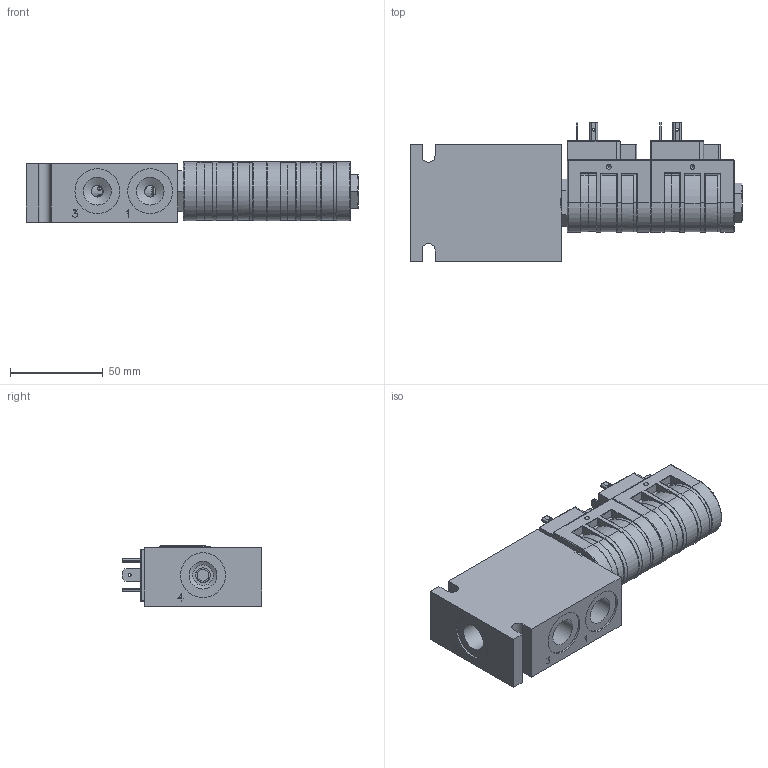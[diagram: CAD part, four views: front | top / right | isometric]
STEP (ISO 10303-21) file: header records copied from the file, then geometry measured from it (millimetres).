
FILE_DESCRIPTION( ( 'Unknown' ), '1' );
FILE_NAME( 'G:/Graphic Design/Graphic Design 2/Data Sheets/SOLENOID OPERATED VALVES/4_STEP/4W2P Spool/VQ-S4M00-B4.stp', 'Unknown', ( 'Unknown' ), ( 'Unknown' ), 'PSStep 15.0.49', 'Unknown', ' ' );
FILE_SCHEMA( ( 'AUTOMOTIVE_DESIGN { 1 0 10303 214 1 1 1 1 }' ) );
Length unit declared in the file: millimetre
Products named in the file (23): d-vq-s4m-00; VQS4M00-3D Full1; VQS4M00-3D Full2; VQS4M00-3D Full3; VQS4M00-3D Full4; VQS4M00-3D Full5; VQS4M00-3D Full6; VQS4M00-3D Full7; VQS4M00-3D Full8; VQS4M00-3D Full9; VQS4M00-3D Full10; VQS4M00-3D Full11; Delta_1_2_nut1 - Copy; D-PHC12_24; PHC_Body; PHC_Disc; PHC_HirschThread; PT-EL-HC-TerminalConnectors; Assem1; B-DPQB4
Assembly tree (24 placements, depth 3):
  Assem1
    B-DPQB4
    d-vq-s4m-00
      VQS4M00-3D Full1
      VQS4M00-3D Full2
      VQS4M00-3D Full3
      VQS4M00-3D Full4
      VQS4M00-3D Full5
      VQS4M00-3D Full6
      VQS4M00-3D Full7
      VQS4M00-3D Full8
      VQS4M00-3D Full9
      VQS4M00-3D Full10
      VQS4M00-3D Full11
      Delta_1_2_nut1 - Copy
    D-PHC12_24  x2
      PHC_Body
      PHC_Disc
      PHC_HirschThread
      PT-EL-HC-TerminalConnectors
      PT-EL-HC-TerminalConnectors
      PT-EL-HC-TerminalConnectors
      PT-EL-HC-TerminalConnectors
Bounding box: 179.18 x 75.34 x 32.62 mm (x, y, z)
Volume: 258494.9 mm3; surface area: 69569.9 mm2
Topology: 29 solids, 29 shells, 800 faces, 1867 edges, 1161 vertices
Faces by surface type: cylinder 322, plane 308, cone 127, torus 31, sphere 12
Full cylindrical faces by diameter (mm): 0.2 x4, 0.5 x4, 1 x2, 1.321 x24, 1.5 x6, 2.337 x16, 4 x4, 6.3 x3, 6.35 x1, 7.948 x1, 9.779 x1, 9.881 x1, 9.931 x2, 10.987 x1, 11 x1, 11.455 x1, 11.506 x2, 12.255 x2, 12.256 x1, 12.548 x1, 12.624 x4, 12.675 x1, 12.751 x1, 13 x2, 13.05 x4, 13.056 x1, 13.106 x2, 14.199 x4, 14.326 x1, 15 x8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
Entity records: 21077 total; most frequent: CARTESIAN_POINT 5179, DIRECTION 2429, ORIENTED_EDGE 2148, EDGE_CURVE 1074, AXIS2_PLACEMENT_3D 1024, EDGE_LOOP 884, VERTEX_POINT 786, FACE_OUTER_BOUND 695
